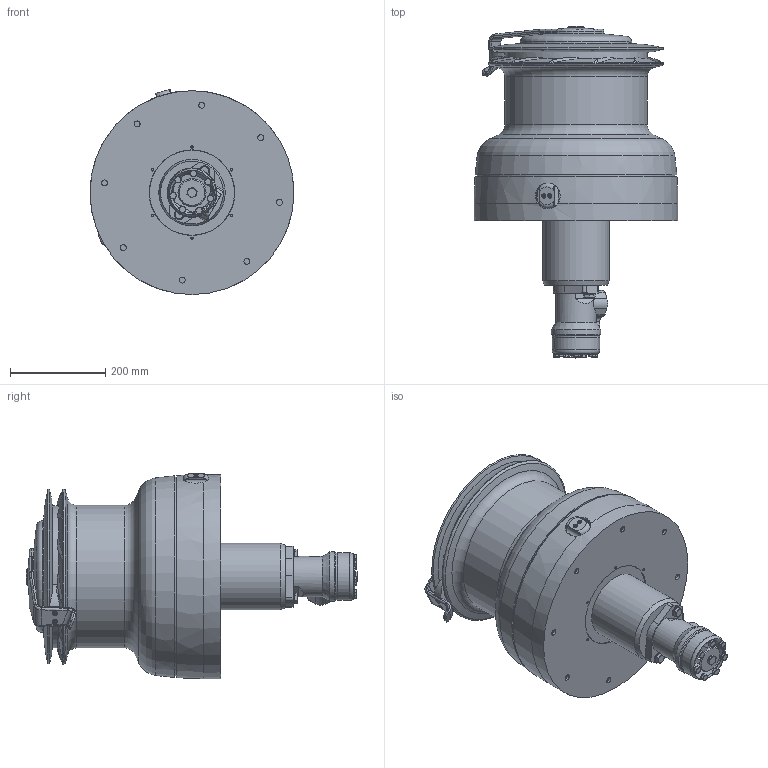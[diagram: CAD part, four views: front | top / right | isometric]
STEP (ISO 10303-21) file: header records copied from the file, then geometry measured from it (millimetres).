
FILE_DESCRIPTION(/* description */ (''),/* implementation_level */ '2;1');
FILE_NAME(/* name */ 'D:\utenti\lucade\Desktop\W90.3HDCH .stp',/* time_stamp */ '2021-11-30T14:36:16+01:00',/* author */ ('lucade'),/* organization */ (''),/* preprocessor_version */ 'ST-DEVELOPER v18.1',/* originating_system */ 'Autodesk Inventor 2021',/* authorisation */ '');
FILE_SCHEMA (('AUTOMOTIVE_DESIGN { 1 0 10303 214 3 1 1 }'));
Length unit declared in the file: millimetre
Products named in the file (1): 21113005
Bounding box: 429 x 698.3 x 431.71 mm (x, y, z)
Volume: 43336979.5 mm3; surface area: 1016341.9 mm2
Topology: 1 solids, 15 shells, 930 faces, 2180 edges, 1410 vertices
Faces by surface type: plane 323, cylinder 244, torus 133, cone 104, sphere 90, bspline 36
Full cylindrical faces by diameter (mm): 3.6 x2, 3.8 x2, 4.1 x2, 4.134 x1, 4.2 x2, 4.6 x2, 4.8 x2, 5 x8, 5.25 x2, 6 x2, 6.2 x2, 6.75 x4, 7.2 x2, 9 x2, 11 x2, 11.8 x2, 12.5 x8, 12.7 x2, 13 x7, 13.55 x2, 18 x1, 27 x1, 28 x1, 31.72 x1, 36 x1, 53.5 x1, 54.2 x1, 82.5 x1, 83.5 x1, 84 x1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
Entity records: 38262 total; most frequent: CARTESIAN_POINT 17355, ORIENTED_EDGE 4342, DIRECTION 4313, EDGE_CURVE 2171, AXIS2_PLACEMENT_3D 1798, VERTEX_POINT 1410, EDGE_LOOP 1089, FACE_OUTER_BOUND 930
